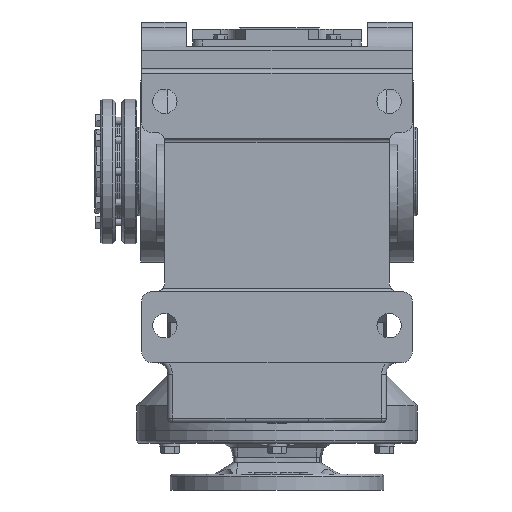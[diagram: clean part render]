
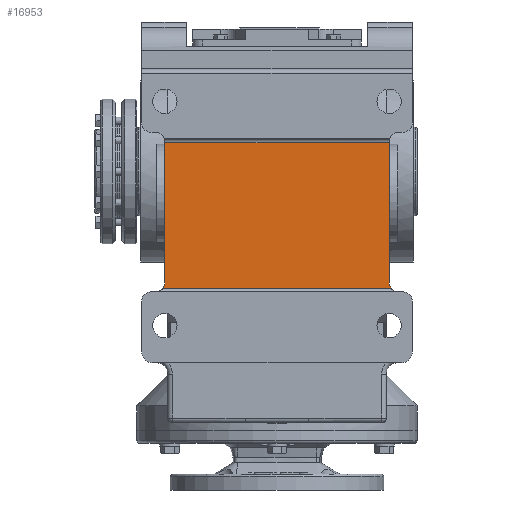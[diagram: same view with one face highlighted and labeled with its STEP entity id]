
A CAD part, front view. The second image highlights one B-rep face of the part: STEP entity #16953.
In plain terms, the highlighted planar face has unit normal (0, -1, 0).
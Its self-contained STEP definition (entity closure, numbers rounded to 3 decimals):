
#5960 = EDGE_CURVE ( 'NONE', #18398, #18392, #57244, .T. ) ;
#6033 = EDGE_CURVE ( 'NONE', #18350, #18347, #15594, .T. ) ;
#6034 = EDGE_CURVE ( 'NONE', #18353, #18350, #15562, .T. ) ;
#6035 = EDGE_CURVE ( 'NONE', #18353, #18398, #15599, .T. ) ;
#6036 = EDGE_CURVE ( 'NONE', #18392, #18341, #15603, .T. ) ;
#6037 = EDGE_CURVE ( 'NONE', #18347, #18341, #15605, .T. ) ;
#6448 = AXIS2_PLACEMENT_3D ( 'NONE', #43434, #43437, #43440 ) ;
#6449 = AXIS2_PLACEMENT_3D ( 'NONE', #43448, #43451, #43454 ) ;
#14607 = EDGE_LOOP ( 'NONE', ( #48546, #48547, #48548, #48549, #48550, #48551 ) ) ;
#15562 = LINE ( 'NONE', #43405, #15601 ) ;
#15594 = LINE ( 'NONE', #43387, #15598 ) ;
#15598 = VECTOR ( 'NONE', #43391, 1000. ) ;
#15599 = CIRCLE ( 'NONE', #6448, 10. ) ;
#15601 = VECTOR ( 'NONE', #43418, 1000. ) ;
#15603 = CIRCLE ( 'NONE', #6449, 10. ) ;
#15605 = LINE ( 'NONE', #43426, #15609 ) ;
#15609 = VECTOR ( 'NONE', #43431, 1000. ) ;
#16953 = ADVANCED_FACE ( 'NONE', ( #24622 ), #58373, .T. ) ;
#18341 = VERTEX_POINT ( 'NONE', #40451 ) ;
#18347 = VERTEX_POINT ( 'NONE', #40463 ) ;
#18350 = VERTEX_POINT ( 'NONE', #40471 ) ;
#18353 = VERTEX_POINT ( 'NONE', #40477 ) ;
#18392 = VERTEX_POINT ( 'NONE', #40560 ) ;
#18398 = VERTEX_POINT ( 'NONE', #40573 ) ;
#24622 = FACE_OUTER_BOUND ( 'NONE', #14607, .T. ) ;
#31054 = AXIS2_PLACEMENT_3D ( 'NONE', #58371, #58375, #58376 ) ;
#40451 = CARTESIAN_POINT ( 'NONE',  ( 120., -260., -119. ) ) ;
#40463 = CARTESIAN_POINT ( 'NONE',  ( 120., -260., 31. ) ) ;
#40471 = CARTESIAN_POINT ( 'NONE',  ( -120., -260., 31. ) ) ;
#40477 = CARTESIAN_POINT ( 'NONE',  ( -120., -260., -119. ) ) ;
#40560 = CARTESIAN_POINT ( 'NONE',  ( 122., -260., -125. ) ) ;
#40573 = CARTESIAN_POINT ( 'NONE',  ( -122., -260., -125. ) ) ;
#42722 = CARTESIAN_POINT ( 'NONE',  ( -145., -260., -125. ) ) ;
#42736 = DIRECTION ( 'NONE',  ( 1., 0., 0. ) ) ;
#43387 = CARTESIAN_POINT ( 'NONE',  ( -145., -260., 31. ) ) ;
#43391 = DIRECTION ( 'NONE',  ( 1., 0., 0. ) ) ;
#43405 = CARTESIAN_POINT ( 'NONE',  ( -120., -260., -125. ) ) ;
#43418 = DIRECTION ( 'NONE',  ( 0., 0., 1. ) ) ;
#43426 = CARTESIAN_POINT ( 'NONE',  ( 120., -260., 31. ) ) ;
#43431 = DIRECTION ( 'NONE',  ( 0., 0., -1. ) ) ;
#43434 = CARTESIAN_POINT ( 'NONE',  ( -130., -260., -119. ) ) ;
#43437 = DIRECTION ( 'NONE',  ( 0., 1., 0. ) ) ;
#43440 = DIRECTION ( 'NONE',  ( 0., 0., -1. ) ) ;
#43448 = CARTESIAN_POINT ( 'NONE',  ( 130., -260., -119. ) ) ;
#43451 = DIRECTION ( 'NONE',  ( 0., 1., 0. ) ) ;
#43454 = DIRECTION ( 'NONE',  ( 0., 0., -1. ) ) ;
#48546 = ORIENTED_EDGE ( 'NONE', *, *, #6033, .F. ) ;
#48547 = ORIENTED_EDGE ( 'NONE', *, *, #6034, .F. ) ;
#48548 = ORIENTED_EDGE ( 'NONE', *, *, #6035, .T. ) ;
#48549 = ORIENTED_EDGE ( 'NONE', *, *, #5960, .T. ) ;
#48550 = ORIENTED_EDGE ( 'NONE', *, *, #6036, .T. ) ;
#48551 = ORIENTED_EDGE ( 'NONE', *, *, #6037, .F. ) ;
#57244 = LINE ( 'NONE', #42722, #57253 ) ;
#57253 = VECTOR ( 'NONE', #42736, 1000. ) ;
#58371 = CARTESIAN_POINT ( 'NONE',  ( -145., -260., 31. ) ) ;
#58373 = PLANE ( 'NONE',  #31054 ) ;
#58375 = DIRECTION ( 'NONE',  ( 0., -1., 0. ) ) ;
#58376 = DIRECTION ( 'NONE',  ( 0., 0., -1. ) ) ;
